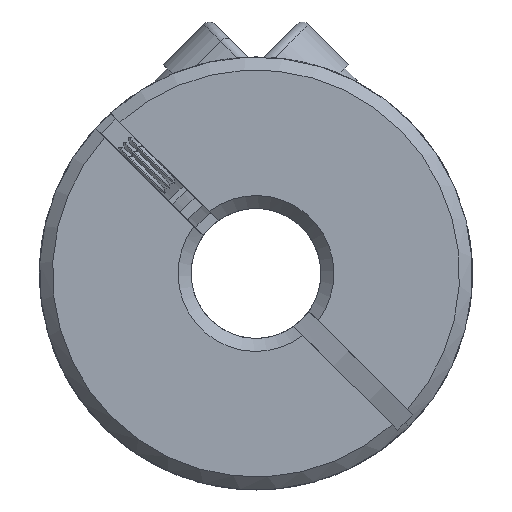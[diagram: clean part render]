
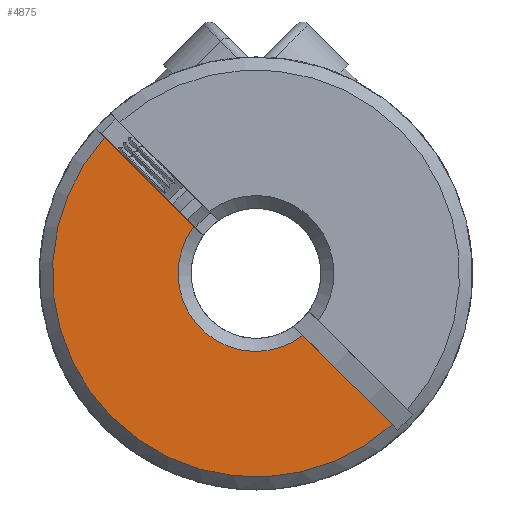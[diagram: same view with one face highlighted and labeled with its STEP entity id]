
A CAD part, front view. The second image highlights one B-rep face of the part: STEP entity #4875.
In plain terms, the highlighted planar face has unit normal (0, -1, 0).
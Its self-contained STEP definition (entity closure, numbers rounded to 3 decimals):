
#95 = LINE ( 'NONE', #11247, #9218 ) ;
#297 = VECTOR ( 'NONE', #11597, 1000. ) ;
#454 = AXIS2_PLACEMENT_3D ( 'NONE', #9278, #4671, #14991 ) ;
#583 = CARTESIAN_POINT ( 'NONE',  ( 6.284, -11.2, -6.991 ) ) ;
#1037 = CARTESIAN_POINT ( 'NONE',  ( -8.839, -11.2, 8.132 ) ) ;
#1255 = EDGE_CURVE ( 'NONE', #4565, #2745, #7864, .T. ) ;
#2697 = CARTESIAN_POINT ( 'NONE',  ( 2.167, -11.2, -2.874 ) ) ;
#2745 = VERTEX_POINT ( 'NONE', #10062 ) ;
#2746 = ORIENTED_EDGE ( 'NONE', *, *, #11509, .T. ) ;
#4565 = VERTEX_POINT ( 'NONE', #2697 ) ;
#4671 = DIRECTION ( 'NONE',  ( 0., -1., 0. ) ) ;
#4875 = ADVANCED_FACE ( 'NONE', ( #8657 ), #6840, .T. ) ;
#5081 = ORIENTED_EDGE ( 'NONE', *, *, #1255, .T. ) ;
#5306 = CARTESIAN_POINT ( 'NONE',  ( 0., -11.2, 0. ) ) ;
#5385 = CIRCLE ( 'NONE', #454, 9.4 ) ;
#6840 = PLANE ( 'NONE',  #13827 ) ;
#7192 = CARTESIAN_POINT ( 'NONE',  ( -6.991, -11.2, 6.284 ) ) ;
#7864 = CIRCLE ( 'NONE', #14053, 3.6 ) ;
#7978 = DIRECTION ( 'NONE',  ( 0., -1., 0. ) ) ;
#8093 = CARTESIAN_POINT ( 'NONE',  ( 45.083, -11.2, 25.627 ) ) ;
#8450 = VERTEX_POINT ( 'NONE', #7192 ) ;
#8657 = FACE_OUTER_BOUND ( 'NONE', #13465, .T. ) ;
#9218 = VECTOR ( 'NONE', #14560, 1000. ) ;
#9278 = CARTESIAN_POINT ( 'NONE',  ( 0., -11.2, 0. ) ) ;
#9676 = VERTEX_POINT ( 'NONE', #583 ) ;
#9919 = DIRECTION ( 'NONE',  ( 0., 1., 0. ) ) ;
#10062 = CARTESIAN_POINT ( 'NONE',  ( -2.874, -11.2, 2.167 ) ) ;
#10343 = EDGE_CURVE ( 'NONE', #9676, #4565, #11026, .T. ) ;
#10389 = ORIENTED_EDGE ( 'NONE', *, *, #10343, .T. ) ;
#11026 = LINE ( 'NONE', #1037, #297 ) ;
#11247 = CARTESIAN_POINT ( 'NONE',  ( 0.205, -11.2, -0.912 ) ) ;
#11509 = EDGE_CURVE ( 'NONE', #2745, #8450, #95, .T. ) ;
#11597 = DIRECTION ( 'NONE',  ( -0.707, 0., 0.707 ) ) ;
#11767 = EDGE_CURVE ( 'NONE', #8450, #9676, #5385, .T. ) ;
#12226 = DIRECTION ( 'NONE',  ( -0.707, 0., 0.707 ) ) ;
#12614 = DIRECTION ( 'NONE',  ( -0.707, 0., 0.707 ) ) ;
#12644 = ORIENTED_EDGE ( 'NONE', *, *, #11767, .T. ) ;
#13465 = EDGE_LOOP ( 'NONE', ( #2746, #12644, #10389, #5081 ) ) ;
#13827 = AXIS2_PLACEMENT_3D ( 'NONE', #8093, #7978, #12614 ) ;
#14053 = AXIS2_PLACEMENT_3D ( 'NONE', #5306, #9919, #12226 ) ;
#14560 = DIRECTION ( 'NONE',  ( -0.707, 0., 0.707 ) ) ;
#14991 = DIRECTION ( 'NONE',  ( -0.707, 0., 0.707 ) ) ;
